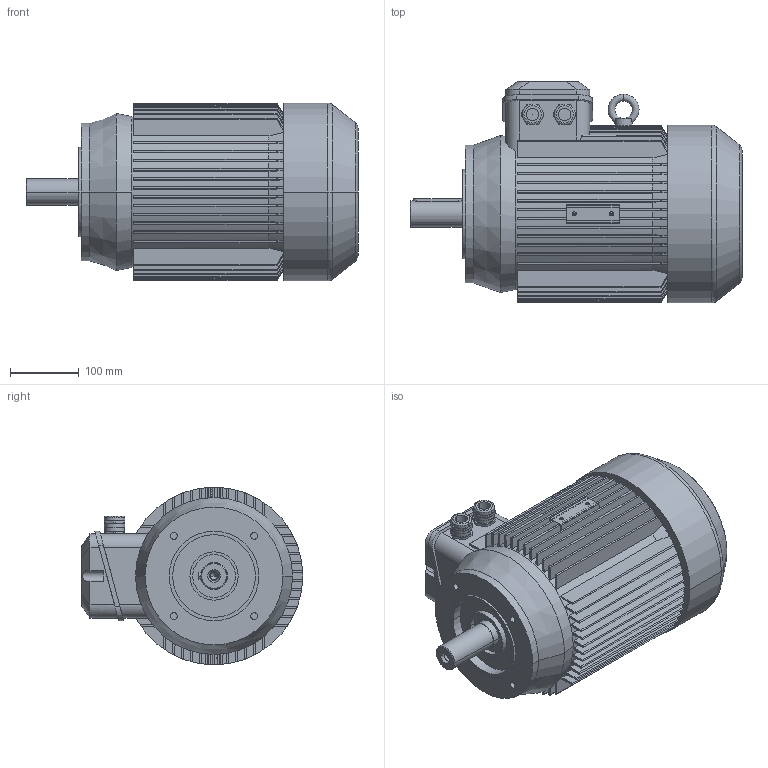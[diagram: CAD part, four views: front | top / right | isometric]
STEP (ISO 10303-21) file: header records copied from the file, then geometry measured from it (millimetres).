
FILE_DESCRIPTION (( 'STEP AP214' ), '1' );
FILE_NAME ('MAP132S2B IM3641 FT165.STEP', '2020-12-23T14:37:18', ( '' ), ( '' ), 'SwSTEP 2.0', 'SolidWorks 2018', '' );
FILE_SCHEMA (( 'AUTOMOTIVE_DESIGN' ));
Length unit declared in the file: millimetre
Products named in the file (1): MAP132S2B IM3641 FT165
Bounding box: 482 x 322 x 258 mm (x, y, z)
Volume: 17165918.1 mm3; surface area: 1125337 mm2
Topology: 1 solids, 6 shells, 792 faces, 2124 edges, 1390 vertices
Faces by surface type: plane 449, cylinder 178, cone 121, bspline 32, torus 12
Entity records: 29726 total; most frequent: CARTESIAN_POINT 10370, ORIENTED_EDGE 4244, DIRECTION 3725, EDGE_CURVE 2122, VERTEX_POINT 1390, AXIS2_PLACEMENT_3D 1250, VECTOR 1225, LINE 1225
